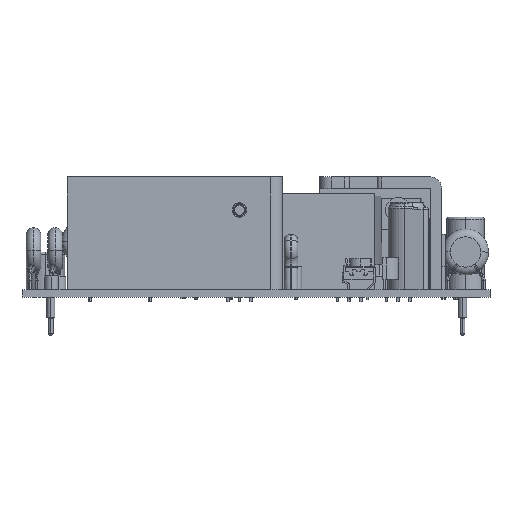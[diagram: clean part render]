
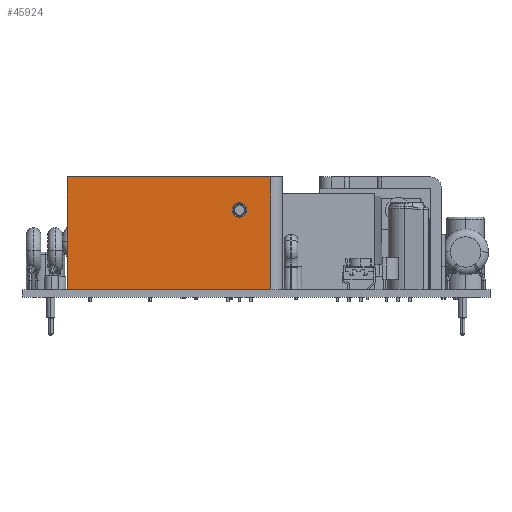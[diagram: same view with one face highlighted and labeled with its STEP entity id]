
A CAD part, top view. The second image highlights one B-rep face of the part: STEP entity #45924.
In plain terms, the highlighted planar face has unit normal (0, 0, 1).
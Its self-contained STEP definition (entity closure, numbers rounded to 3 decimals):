
#12037 = VERTEX_POINT ( 'NONE', #48430 ) ;
#12040 = EDGE_CURVE ( 'NONE', #12041, #12037, #48428, .T. ) ;
#12041 = VERTEX_POINT ( 'NONE', #48423 ) ;
#18172 = DIRECTION ( 'NONE',  ( -1., 0., 0. ) ) ;
#18173 = DIRECTION ( 'NONE',  ( 0., 0., -1. ) ) ;
#18174 = CARTESIAN_POINT ( 'NONE',  ( -25.9, 15., 5.3 ) ) ;
#18175 = AXIS2_PLACEMENT_3D ( 'NONE', #18174, #18173, #18172 ) ;
#18176 = CIRCLE ( 'NONE', #18175, 1.55 ) ;
#18205 = FACE_OUTER_BOUND ( 'NONE', #45917, .T. ) ;
#18210 = FACE_BOUND ( 'NONE', #45913, .T. ) ;
#18237 = DIRECTION ( 'NONE',  ( -1., 0., 0. ) ) ;
#18238 = DIRECTION ( 'NONE',  ( 0., 0., -1. ) ) ;
#18239 = CARTESIAN_POINT ( 'NONE',  ( -63.3, 22.2, 5.3 ) ) ;
#18240 = AXIS2_PLACEMENT_3D ( 'NONE', #18239, #18238, #18237 ) ;
#18241 = PLANE ( 'NONE',  #18240 ) ;
#18271 = CARTESIAN_POINT ( 'NONE',  ( -63.3, 22.2, 5.3 ) ) ;
#18272 = DIRECTION ( 'NONE',  ( 0., -1., 0. ) ) ;
#18273 = VECTOR ( 'NONE', #18272, 1000. ) ;
#18274 = CARTESIAN_POINT ( 'NONE',  ( -63.3, 22.2, 5.3 ) ) ;
#18278 = LINE ( 'NONE', #18274, #18273 ) ;
#18319 = CARTESIAN_POINT ( 'NONE',  ( -19.1, 22.2, 5.3 ) ) ;
#18320 = DIRECTION ( 'NONE',  ( 0., -1., 0. ) ) ;
#18321 = VECTOR ( 'NONE', #18320, 1000. ) ;
#18322 = CARTESIAN_POINT ( 'NONE',  ( -19.1, 22.2, 5.3 ) ) ;
#18323 = LINE ( 'NONE', #18322, #18321 ) ;
#18408 = DIRECTION ( 'NONE',  ( 1., 0., 0. ) ) ;
#18409 = VECTOR ( 'NONE', #18408, 1000. ) ;
#18410 = CARTESIAN_POINT ( 'NONE',  ( -63.3, 22.2, 5.3 ) ) ;
#18411 = LINE ( 'NONE', #18410, #18409 ) ;
#25883 = EDGE_CURVE ( 'NONE', #25884, #26020, #47896, .T. ) ;
#25884 = VERTEX_POINT ( 'NONE', #47892 ) ;
#26020 = VERTEX_POINT ( 'NONE', #48086 ) ;
#45913 = EDGE_LOOP ( 'NONE', ( #45914, #45915 ) ) ;
#45914 = ORIENTED_EDGE ( 'NONE', *, *, #12040, .T. ) ;
#45915 = ORIENTED_EDGE ( 'NONE', *, *, #45916, .T. ) ;
#45916 = EDGE_CURVE ( 'NONE', #12037, #12041, #18176, .T. ) ;
#45917 = EDGE_LOOP ( 'NONE', ( #45918, #45961, #45964, #45995 ) ) ;
#45918 = ORIENTED_EDGE ( 'NONE', *, *, #25883, .T. ) ;
#45924 = ADVANCED_FACE ( 'NONE', ( #18210, #18205 ), #18241, .F. ) ;
#45935 = EDGE_CURVE ( 'NONE', #45936, #25884, #18278, .T. ) ;
#45936 = VERTEX_POINT ( 'NONE', #18271 ) ;
#45961 = ORIENTED_EDGE ( 'NONE', *, *, #45962, .F. ) ;
#45962 = EDGE_CURVE ( 'NONE', #45963, #26020, #18323, .T. ) ;
#45963 = VERTEX_POINT ( 'NONE', #18319 ) ;
#45964 = ORIENTED_EDGE ( 'NONE', *, *, #45994, .F. ) ;
#45994 = EDGE_CURVE ( 'NONE', #45936, #45963, #18411, .T. ) ;
#45995 = ORIENTED_EDGE ( 'NONE', *, *, #45935, .T. ) ;
#47892 = CARTESIAN_POINT ( 'NONE',  ( -63.3, -2.3, 5.3 ) ) ;
#47893 = DIRECTION ( 'NONE',  ( 1., 0., 0. ) ) ;
#47894 = VECTOR ( 'NONE', #47893, 1000. ) ;
#47895 = CARTESIAN_POINT ( 'NONE',  ( -63.3, -2.3, 5.3 ) ) ;
#47896 = LINE ( 'NONE', #47895, #47894 ) ;
#48086 = CARTESIAN_POINT ( 'NONE',  ( -19.1, -2.3, 5.3 ) ) ;
#48423 = CARTESIAN_POINT ( 'NONE',  ( -24.35, 15., 5.3 ) ) ;
#48424 = DIRECTION ( 'NONE',  ( -1., 0., 0. ) ) ;
#48425 = DIRECTION ( 'NONE',  ( 0., 0., -1. ) ) ;
#48426 = CARTESIAN_POINT ( 'NONE',  ( -25.9, 15., 5.3 ) ) ;
#48427 = AXIS2_PLACEMENT_3D ( 'NONE', #48426, #48425, #48424 ) ;
#48428 = CIRCLE ( 'NONE', #48427, 1.55 ) ;
#48430 = CARTESIAN_POINT ( 'NONE',  ( -27.45, 15., 5.3 ) ) ;
